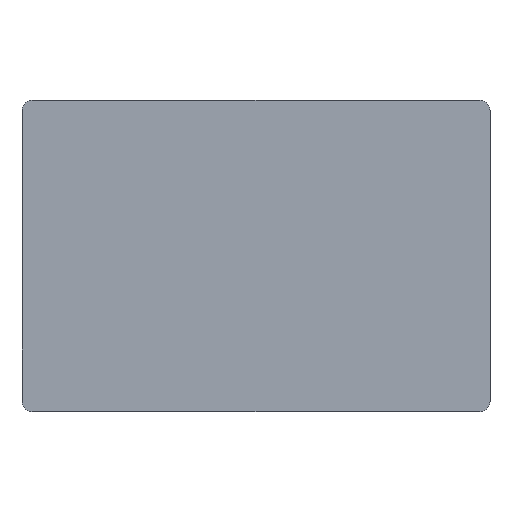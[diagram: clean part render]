
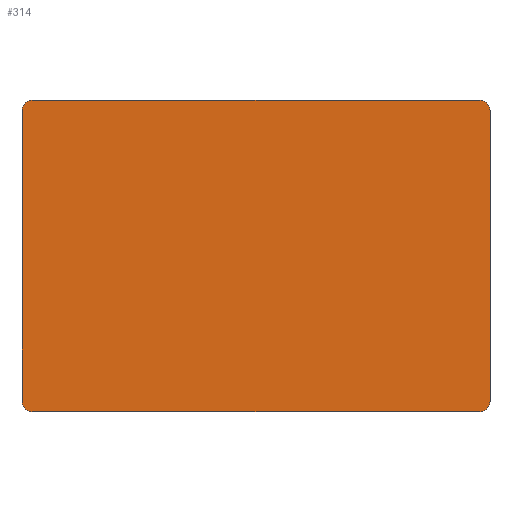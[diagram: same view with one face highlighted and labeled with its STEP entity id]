
A CAD part, top view. The second image highlights one B-rep face of the part: STEP entity #314.
In plain terms, the highlighted planar face has unit normal (0, 0, 1).
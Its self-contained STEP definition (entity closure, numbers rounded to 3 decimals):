
#4 = ORIENTED_EDGE ( 'NONE', *, *, #236, .T. ) ;
#7 = CIRCLE ( 'NONE', #191, 3.6 ) ;
#15 = VERTEX_POINT ( 'NONE', #167 ) ;
#38 = CARTESIAN_POINT ( 'NONE',  ( 74.9, 52.25, 5. ) ) ;
#41 = VERTEX_POINT ( 'NONE', #67 ) ;
#44 = CIRCLE ( 'NONE', #289, 3.6 ) ;
#46 = DIRECTION ( 'NONE',  ( -1., 0., 0. ) ) ;
#48 = DIRECTION ( 'NONE',  ( 0., 0., 1. ) ) ;
#52 = ORIENTED_EDGE ( 'NONE', *, *, #157, .T. ) ;
#55 = DIRECTION ( 'NONE',  ( -1., 0., 0. ) ) ;
#57 = LINE ( 'NONE', #162, #233 ) ;
#58 = EDGE_CURVE ( 'NONE', #41, #160, #44, .T. ) ;
#65 = VECTOR ( 'NONE', #322, 1000. ) ;
#67 = CARTESIAN_POINT ( 'NONE',  ( -78.5, -48.65, 5. ) ) ;
#72 = DIRECTION ( 'NONE',  ( -1., 0., 0. ) ) ;
#74 = CARTESIAN_POINT ( 'NONE',  ( 74.9, -48.65, 5. ) ) ;
#76 = VECTOR ( 'NONE', #153, 1000. ) ;
#79 = DIRECTION ( 'NONE',  ( 0., 0., -1. ) ) ;
#84 = DIRECTION ( 'NONE',  ( 0., 1., 0. ) ) ;
#90 = CARTESIAN_POINT ( 'NONE',  ( -74.9, -48.65, 5. ) ) ;
#94 = AXIS2_PLACEMENT_3D ( 'NONE', #210, #79, #130 ) ;
#106 = CARTESIAN_POINT ( 'NONE',  ( -74.9, -52.25, 5. ) ) ;
#108 = FACE_OUTER_BOUND ( 'NONE', #128, .T. ) ;
#124 = CARTESIAN_POINT ( 'NONE',  ( -74.9, 48.65, 5. ) ) ;
#128 = EDGE_LOOP ( 'NONE', ( #178, #154, #52, #161, #165, #201, #4, #258 ) ) ;
#129 = CARTESIAN_POINT ( 'NONE',  ( -78.5, 48.65, 5. ) ) ;
#130 = DIRECTION ( 'NONE',  ( -1., 0., 0. ) ) ;
#137 = PLANE ( 'NONE',  #94 ) ;
#148 = LINE ( 'NONE', #172, #65 ) ;
#153 = DIRECTION ( 'NONE',  ( 0., -1., 0. ) ) ;
#154 = ORIENTED_EDGE ( 'NONE', *, *, #58, .T. ) ;
#157 = EDGE_CURVE ( 'NONE', #160, #237, #57, .T. ) ;
#159 = VERTEX_POINT ( 'NONE', #38 ) ;
#160 = VERTEX_POINT ( 'NONE', #106 ) ;
#161 = ORIENTED_EDGE ( 'NONE', *, *, #212, .T. ) ;
#162 = CARTESIAN_POINT ( 'NONE',  ( 78.5, -52.25, 5. ) ) ;
#163 = VERTEX_POINT ( 'NONE', #129 ) ;
#165 = ORIENTED_EDGE ( 'NONE', *, *, #175, .T. ) ;
#167 = CARTESIAN_POINT ( 'NONE',  ( -74.9, 52.25, 5. ) ) ;
#168 = AXIS2_PLACEMENT_3D ( 'NONE', #287, #309, #55 ) ;
#172 = CARTESIAN_POINT ( 'NONE',  ( 78.5, 52.25, 5. ) ) ;
#175 = EDGE_CURVE ( 'NONE', #278, #262, #182, .T. ) ;
#176 = CIRCLE ( 'NONE', #320, 3.6 ) ;
#178 = ORIENTED_EDGE ( 'NONE', *, *, #263, .T. ) ;
#182 = LINE ( 'NONE', #279, #292 ) ;
#189 = EDGE_CURVE ( 'NONE', #15, #163, #176, .T. ) ;
#191 = AXIS2_PLACEMENT_3D ( 'NONE', #74, #48, #72 ) ;
#201 = ORIENTED_EDGE ( 'NONE', *, *, #323, .T. ) ;
#210 = CARTESIAN_POINT ( 'NONE',  ( 0., 0., 5. ) ) ;
#212 = EDGE_CURVE ( 'NONE', #237, #278, #7, .T. ) ;
#220 = DIRECTION ( 'NONE',  ( -1., 0., 0. ) ) ;
#221 = CARTESIAN_POINT ( 'NONE',  ( -78.5, -52.25, 5. ) ) ;
#233 = VECTOR ( 'NONE', #256, 1000. ) ;
#236 = EDGE_CURVE ( 'NONE', #159, #15, #148, .T. ) ;
#237 = VERTEX_POINT ( 'NONE', #241 ) ;
#239 = LINE ( 'NONE', #221, #76 ) ;
#241 = CARTESIAN_POINT ( 'NONE',  ( 74.9, -52.25, 5. ) ) ;
#245 = CIRCLE ( 'NONE', #168, 3.6 ) ;
#256 = DIRECTION ( 'NONE',  ( 1., 0., 0. ) ) ;
#258 = ORIENTED_EDGE ( 'NONE', *, *, #189, .T. ) ;
#262 = VERTEX_POINT ( 'NONE', #326 ) ;
#263 = EDGE_CURVE ( 'NONE', #163, #41, #239, .T. ) ;
#276 = DIRECTION ( 'NONE',  ( 0., 0., 1. ) ) ;
#278 = VERTEX_POINT ( 'NONE', #296 ) ;
#279 = CARTESIAN_POINT ( 'NONE',  ( 78.5, -52.25, 5. ) ) ;
#287 = CARTESIAN_POINT ( 'NONE',  ( 74.9, 48.65, 5. ) ) ;
#289 = AXIS2_PLACEMENT_3D ( 'NONE', #90, #290, #46 ) ;
#290 = DIRECTION ( 'NONE',  ( 0., 0., 1. ) ) ;
#292 = VECTOR ( 'NONE', #84, 1000. ) ;
#296 = CARTESIAN_POINT ( 'NONE',  ( 78.5, -48.65, 5. ) ) ;
#309 = DIRECTION ( 'NONE',  ( 0., 0., 1. ) ) ;
#314 = ADVANCED_FACE ( 'NONE', ( #108 ), #137, .F. ) ;
#320 = AXIS2_PLACEMENT_3D ( 'NONE', #124, #276, #220 ) ;
#322 = DIRECTION ( 'NONE',  ( -1., 0., 0. ) ) ;
#323 = EDGE_CURVE ( 'NONE', #262, #159, #245, .T. ) ;
#326 = CARTESIAN_POINT ( 'NONE',  ( 78.5, 48.65, 5. ) ) ;
